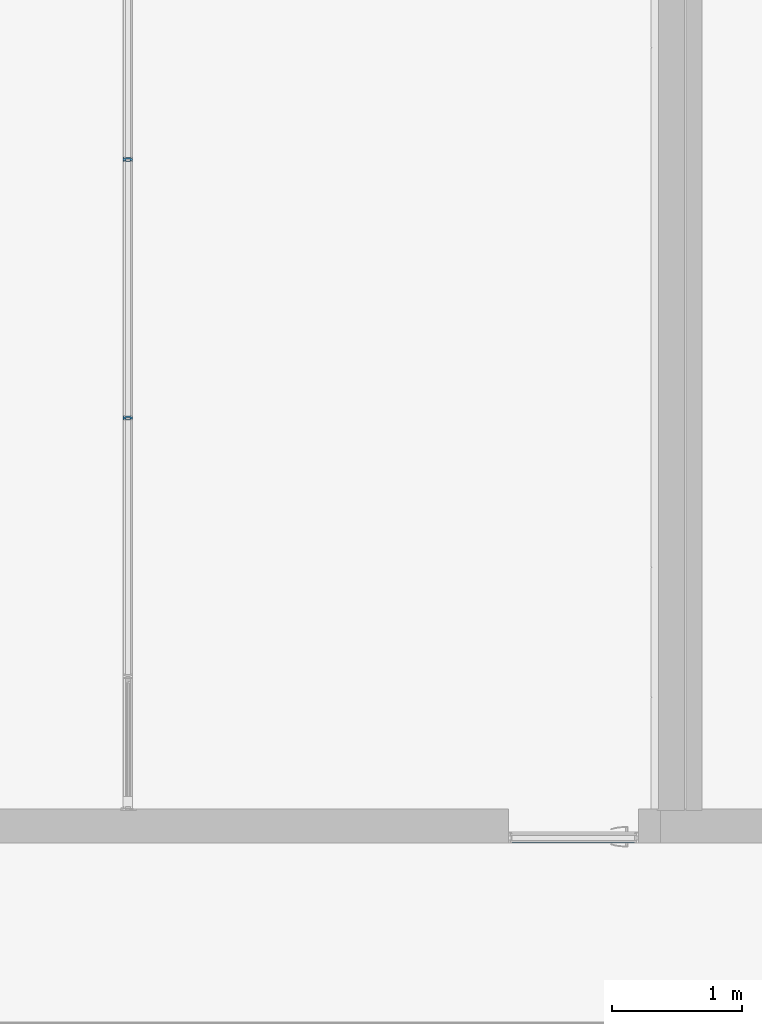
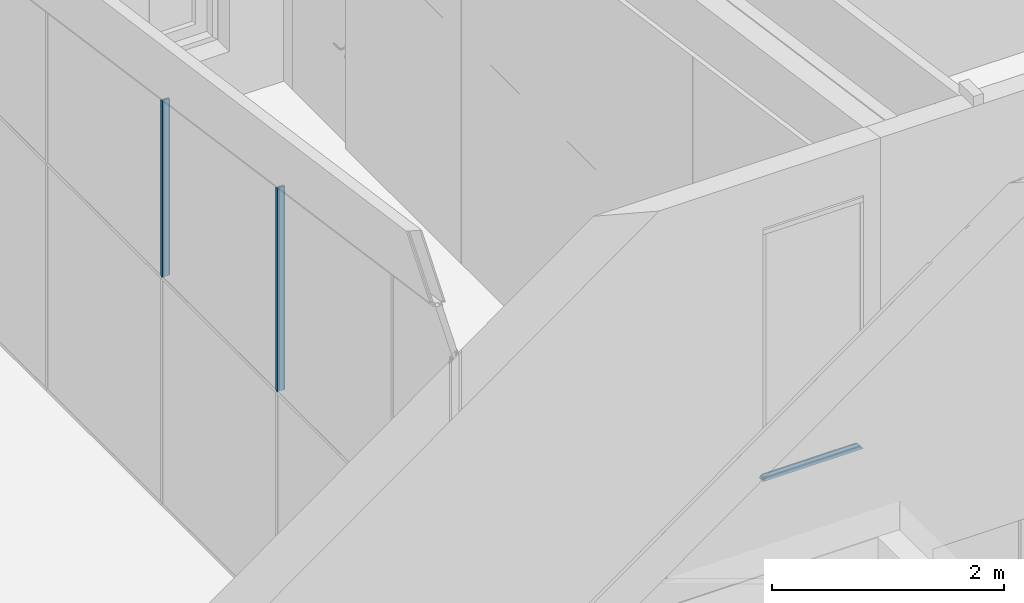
# One storey, part 71 of 246: 3 members, 2 elements without a shape of their own.
"""IFC2X3 building model written with IfcOpenShell, lengths in millimetres."""

from ifc_helpers import new_model, entity, si_unit, converted_unit, derived_unit, money_unit, direction, frame, origin_with_axes, place, context, subcontext, project, spatial, faceted_brep, material, material_list, type_object, element, aggregate, save


model = new_model("IFC2X3")

# Units and contexts
model_context = context("Model", 3, precision=0.01, world=origin_with_axes(), true_north=direction((0.0, 1.0)))
body_context = subcontext(model_context, "Body", "Model", "MODEL_VIEW")
ifc_project = project(units=[si_unit("LENGTHUNIT", "METRE", prefix="MILLI"), si_unit("AREAUNIT", "SQUARE_METRE"), si_unit("VOLUMEUNIT", "CUBIC_METRE"), converted_unit("PLANEANGLEUNIT", "DEGREE", entity("IfcPlaneAngleMeasure", 0.0174532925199), si_unit("PLANEANGLEUNIT", "RADIAN"), dimensions=[0, 0, 0, 0, 0, 0, 0]), si_unit("SOLIDANGLEUNIT", "STERADIAN"), money_unit("EUR"), converted_unit("TIMEUNIT", "Year", entity("IfcTimeMeasure", 31556926.0), si_unit("TIMEUNIT", "SECOND"), dimensions=[0, 0, 1, 0, 0, 0, 0]), si_unit("MASSUNIT", "GRAM", prefix="KILO"), si_unit("THERMODYNAMICTEMPERATUREUNIT", "DEGREE_CELSIUS"), si_unit("LUMINOUSINTENSITYUNIT", "LUMEN"), si_unit("ENERGYUNIT", "JOULE", prefix="MEGA"), derived_unit("THERMALCONDUCTANCEUNIT", [(si_unit("POWERUNIT", "WATT"), 1), (si_unit("LENGTHUNIT", "METRE"), -1), (si_unit("THERMODYNAMICTEMPERATUREUNIT", "KELVIN"), -1)]), derived_unit("SPECIFICHEATCAPACITYUNIT", [(si_unit("ENERGYUNIT", "JOULE"), 1), (si_unit("MASSUNIT", "GRAM", prefix="KILO"), -1), (si_unit("THERMODYNAMICTEMPERATUREUNIT", "KELVIN"), -1)]), derived_unit("MASSDENSITYUNIT", [(si_unit("MASSUNIT", "GRAM", prefix="KILO"), 1), (si_unit("VOLUMEUNIT", "CUBIC_METRE"), -1)])], contexts=[model_context])

# Site, building, storey
site_placement = place(None, origin_with_axes())
site = spatial("IfcSite", under=ifc_project, at=site_placement, Name="L.Koidula tn 11b", CompositionType="ELEMENT")
building_placement = place(site_placement, origin_with_axes())
building = spatial("IfcBuilding", under=site, at=building_placement, Name="Rakvere Riigigümnaasium", CompositionType="ELEMENT")
storey_placement = place(building_placement, origin_with_axes())
storey = spatial("IfcBuildingStorey", under=building, at=storey_placement, Name="1.korrus 0,00", CompositionType="ELEMENT", Elevation=0.0)

# Curtain wall, member
curtain_wall_type = type_object("IfcCurtainWallType", Name="Curtain Wall Type", PredefinedType="NOTDEFINED")
curtain_wall_1_placement = place(storey_placement, frame((36265.0251025, 61372.4546496, -0.000126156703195), z_axis=(0.0, 0.0, 1.0), x_axis=(1.0, 0.0, 0.0)))
curtain_wall_1 = element("IfcCurtainWall", 1, at=curtain_wall_1_placement, inside=storey, type_object=curtain_wall_type, Name="SKLF-03")
ifc_material_1 = material(Name="Klaasvill")
ifc_material_2 = material(Name="Teras RAL7012")
ifc_material_list = material_list([ifc_material_1, ifc_material_2])
member_type_1 = type_object("IfcMemberType", Name="Siseklaasfassaad-Servaprofiil-Doubleline30 30 x 42", PredefinedType="MULLION")
member_1_placement = place(curtain_wall_1_placement, frame((-500.0, 0.0, 2400.00010875), z_axis=(1.0, 0.0, 0.0), x_axis=(0.0, 0.0, 1.0)))
member_1 = element("IfcMember", 2, at=member_1_placement, type_object=member_type_1, material=ifc_material_list, Name="Frame-Siseklaasf-001", ObjectType="MULLION", context=body_context, shape_type="Brep", body=[
    faceted_brep([(13.8499999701, 15.000000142, 13.8499999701), (13.8499999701, 15.000000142, 986.15000003), (7.49999990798, 15.000000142, 992.500000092), (7.49999990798, 15.000000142, 7.49999990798), (13.8499999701, 29.0161444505, 13.8499999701), (13.8499999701, 29.0161444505, 986.15000003), (7.49999990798, 29.0161444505, 992.500000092), (7.49999990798, 29.0161444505, 7.49999990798)], [[[0, 1, 2, 3]], [[4, 5, 1, 0]], [[2, 1, 5, 6]], [[3, 2, 6, 7]], [[3, 7, 4, 0]], [[7, 6, 5, 4]]]),
    faceted_brep([(25.004489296, 27.0307503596, 25.004489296), (25.004489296, 27.0307503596, 974.995510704), (24.987414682, 29.0161444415, 975.012585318), (24.987414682, 29.0161444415, 24.987414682), (25.742237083, 26.2930025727, 25.742237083), (25.742237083, 26.2930025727, 974.257762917), (26.7500193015, 26.0229681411, 973.249980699), (27.75780152, 26.2930025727, 972.24219848), (28.4955493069, 27.0307503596, 971.504450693), (28.7655837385, 28.0385325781, 971.234416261), (28.5126239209, 29.0161444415, 971.487376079), (28.5126239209, 29.0161444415, 28.5126239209), (28.7655837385, 28.0385325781, 28.7655837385), (28.4955493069, 27.0307503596, 28.4955493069), (27.75780152, 26.2930025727, 27.75780152), (26.7500193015, 26.0229681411, 26.7500193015)], [[[0, 1, 2, 3]], [[4, 5, 1, 0]], [[2, 1, 5, 6, 7, 8, 9, 10]], [[3, 2, 10, 11]], [[3, 11, 12, 13, 14, 15, 4, 0]], [[15, 6, 5, 4]], [[14, 7, 6, 15]], [[13, 8, 7, 14]], [[12, 9, 8, 13]], [[11, 10, 9, 12]]]),
    faceted_brep([(7.49999990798, -39.0161445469, 7.49999990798), (7.49999990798, -39.0161445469, 992.500000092), (7.49999990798, -24.9999997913, 992.500000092), (7.49999990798, -24.9999997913, 7.49999990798), (13.8499999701, -39.0161445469, 13.8499999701), (13.8499999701, -39.0161445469, 986.15000003), (13.8499999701, -24.9999997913, 986.15000003), (13.8499999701, -24.9999997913, 13.8499999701)], [[[0, 1, 2, 3]], [[4, 5, 1, 0]], [[2, 1, 5, 6]], [[3, 2, 6, 7]], [[3, 7, 4, 0]], [[7, 6, 5, 4]]]),
    faceted_brep([(24.987414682, -39.0161444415, 24.987414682), (24.987414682, -39.0161444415, 975.012585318), (25.004489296, -37.0307503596, 974.995510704), (25.004489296, -37.0307503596, 25.004489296), (28.5126239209, -39.0161444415, 28.5126239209), (28.5126239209, -39.0161444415, 971.487376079), (28.7655837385, -38.0385325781, 971.234416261), (28.4955493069, -37.0307503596, 971.504450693), (27.75780152, -36.2930025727, 972.24219848), (26.7500193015, -36.0229681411, 973.249980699), (25.742237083, -36.2930025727, 974.257762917), (25.742237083, -36.2930025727, 25.742237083), (26.7500193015, -36.0229681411, 26.7500193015), (27.75780152, -36.2930025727, 27.75780152), (28.4955493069, -37.0307503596, 28.4955493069), (28.7655837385, -38.0385325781, 28.7655837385)], [[[0, 1, 2, 3]], [[4, 5, 1, 0]], [[2, 1, 5, 6, 7, 8, 9, 10]], [[3, 2, 10, 11]], [[3, 11, 12, 13, 14, 15, 4, 0]], [[15, 6, 5, 4]], [[14, 7, 6, 15]], [[13, 8, 7, 14]], [[12, 9, 8, 13]], [[11, 10, 9, 12]]]),
    faceted_brep([(29.5999996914, -22.0000000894, 29.5999996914), (29.5999996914, -22.0000000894, 970.400000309), (0.0, -22.0000000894, 1000.0), (0.0, -22.0000000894, 0.0), (29.5999996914, 12.0000000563, 29.5999996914), (29.5999996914, 12.0000000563, 970.400000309), (0.0, 12.0000000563, 1000.0), (1.9999999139, 10.0000001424, 998.000000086), (18.7999996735, 10.0000001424, 981.200000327), (18.7999996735, -20.0000001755, 981.200000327), (1.9999999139, -20.0000001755, 998.000000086), (0.0, 12.0000000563, 0.0), (1.9999999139, 10.0000001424, 1.9999999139), (1.9999999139, -20.0000001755, 1.9999999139), (18.7999996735, -20.0000001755, 18.7999996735), (18.7999996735, 10.0000001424, 18.7999996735)], [[[0, 1, 2, 3]], [[4, 5, 1, 0]], [[2, 1, 5, 6], [7, 8, 9, 10]], [[3, 2, 6, 11]], [[3, 11, 4, 0], [12, 13, 14, 15]], [[11, 6, 5, 4]], [[15, 8, 7, 12]], [[14, 9, 8, 15]], [[13, 10, 9, 14]], [[12, 7, 10, 13]]]),
    faceted_brep([(29.5999996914, 12.0000000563, 29.5999996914), (29.5999996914, 12.0000000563, 970.400000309), (0.0, 12.0, 1000.0), (0.0, 12.0, 0.0), (30.0000193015, 12.0, 30.0000193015), (30.0000193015, 12.0, 969.999980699), (30.0000193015, 15.0, 969.999980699), (13.8499999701, 15.000000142, 986.15000003), (7.49999999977, 15.0, 992.5), (7.49999999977, 29.0161444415, 992.5), (13.8499999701, 29.0161444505, 986.15000003), (24.987414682, 29.0161444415, 975.012585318), (28.5126239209, 29.0161444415, 971.487376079), (30.0000193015, 29.0161444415, 969.999980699), (30.0000193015, 32.0, 969.999980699), (0.0, 32.0, 1000.0), (0.0, 32.0, 0.0), (30.0000193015, 32.0, 30.0000193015), (30.0000193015, 29.0161444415, 30.0000193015), (28.5126239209, 29.0161444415, 28.5126239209), (24.987414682, 29.0161444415, 24.987414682), (13.8499999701, 29.0161444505, 13.8499999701), (7.49999999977, 29.0161444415, 7.49999999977), (7.49999999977, 15.0, 7.49999999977), (13.8499999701, 15.000000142, 13.8499999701), (30.0000193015, 15.0, 30.0000193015)], [[[0, 1, 2, 3]], [[4, 5, 1, 0]], [[2, 1, 5, 6, 7, 8, 9, 10, 11, 12, 13, 14, 15]], [[3, 2, 15, 16]], [[3, 16, 17, 18, 19, 20, 21, 22, 23, 24, 25, 4, 0]], [[25, 6, 5, 4]], [[24, 7, 6, 25]], [[23, 8, 7, 24]], [[22, 9, 8, 23]], [[21, 10, 9, 22]], [[20, 11, 10, 21]], [[19, 12, 11, 20]], [[18, 13, 12, 19]], [[17, 14, 13, 18]], [[16, 15, 14, 17]]]),
    faceted_brep([(0.0, -42.0, 0.0), (0.0, -42.0, 1000.0), (0.0, -22.0, 1000.0), (0.0, -22.0, 0.0), (30.0000193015, -42.0, 30.0000193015), (30.0000193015, -42.0, 969.999980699), (30.0000193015, -39.0161444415, 969.999980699), (28.5126239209, -39.0161444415, 971.487376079), (24.987414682, -39.0161444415, 975.012585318), (13.8499999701, -39.0161445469, 986.15000003), (7.49999999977, -39.0161444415, 992.5), (7.49999999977, -25.0, 992.5), (13.8499999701, -24.9999997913, 986.15000003), (30.0000193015, -25.0, 969.999980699), (30.0000193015, -22.0, 969.999980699), (29.5999996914, -22.0000000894, 970.400000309), (29.5999996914, -22.0000000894, 29.5999996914), (30.0000193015, -22.0, 30.0000193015), (30.0000193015, -25.0, 30.0000193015), (13.8499999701, -24.9999997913, 13.8499999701), (7.49999999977, -25.0, 7.49999999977), (7.49999999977, -39.0161444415, 7.49999999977), (13.8499999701, -39.0161445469, 13.8499999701), (24.987414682, -39.0161444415, 24.987414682), (28.5126239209, -39.0161444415, 28.5126239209), (30.0000193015, -39.0161444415, 30.0000193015)], [[[0, 1, 2, 3]], [[4, 5, 1, 0]], [[2, 1, 5, 6, 7, 8, 9, 10, 11, 12, 13, 14, 15]], [[3, 2, 15, 16]], [[3, 16, 17, 18, 19, 20, 21, 22, 23, 24, 25, 4, 0]], [[25, 6, 5, 4]], [[24, 7, 6, 25]], [[23, 8, 7, 24]], [[22, 9, 8, 23]], [[21, 10, 9, 22]], [[20, 11, 10, 21]], [[19, 12, 11, 20]], [[18, 13, 12, 19]], [[17, 14, 13, 18]], [[16, 15, 14, 17]]]),
])
aggregate(curtain_wall_1, [member_1])

# Curtain wall, members
curtain_wall_2_placement = place(storey_placement, frame((32835.0202258, 67589.2016838, 0.0), z_axis=(0.0, 0.0, 1.0), x_axis=(1.0, 0.0, 0.0)))
curtain_wall_2 = element("IfcCurtainWall", 3, at=curtain_wall_2_placement, inside=storey, type_object=curtain_wall_type, Name="SKLF-02")
member_type_2 = type_object("IfcMemberType", Name="Siseklaasfassaad-Vaheprofiil-Doubleline30 34 x 42", PredefinedType="MULLION")
member_2_placement = place(curtain_wall_2_placement, frame((0.0, -2981.25, 2400.0), z_axis=(0.0, 0.0, 1.0), x_axis=(0.0, 1.0, 0.0)))
member_2 = element("IfcMember", 4, at=member_2_placement, type_object=member_type_2, material=ifc_material_list, Name="Frame-Siseklaasf-243", ObjectType="MULLION", context=body_context, shape_type="Brep", body=[
    faceted_brep([(15.4955493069, 27.0307503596, 15.4955493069), (15.7655837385, 28.0385325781, 15.7655837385), (15.7655837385, 28.0385325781, 2152.89909419), (15.4955493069, 27.0307503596, 2152.9375348), (15.5126239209, 29.0161444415, 15.5126239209), (14.75780152, 26.2930025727, 14.75780152), (13.7500193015, 26.0229681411, 13.7500193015), (12.742237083, 26.2930025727, 12.742237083), (12.004489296, 27.0307503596, 12.004489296), (11.987414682, 29.0161444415, 11.987414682), (15.5126239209, 29.0161444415, 2152.93510415), (11.987414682, 29.0161444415, 2153.43693352), (12.004489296, 27.0307503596, 2153.43450287), (12.742237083, 26.2930025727, 2153.32948116), (13.7500193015, 26.0229681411, 2153.18601884), (14.75780152, 26.2930025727, 2153.04255651)], [[[0, 1, 2, 3]], [[4, 1, 0, 5, 6, 7, 8, 9]], [[1, 4, 10, 2]], [[3, 2, 10, 11, 12, 13, 14, 15]], [[5, 0, 3, 15]], [[6, 5, 15, 14]], [[7, 6, 14, 13]], [[8, 7, 13, 12]], [[9, 8, 12, 11]], [[4, 9, 11, 10]]]),
    faceted_brep([(11.987414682, -39.0161444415, 11.987414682), (15.5126239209, -39.0161444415, 15.5126239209), (15.5126239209, -39.0161444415, 2152.93510415), (11.987414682, -39.0161444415, 2153.43693352), (15.4955493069, -37.0307503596, 15.4955493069), (11.7344548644, -38.0385325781, 11.7344548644), (12.004489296, -37.0307503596, 12.004489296), (12.742237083, -36.2930025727, 12.742237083), (13.7500193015, -36.0229681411, 13.7500193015), (14.75780152, -36.2930025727, 14.75780152), (15.4955493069, -37.0307503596, 2152.9375348), (12.004489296, -37.0307503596, 2153.43450287), (11.7344548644, -38.0385325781, 2153.47294349), (14.75780152, -36.2930025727, 2153.04255651), (13.7500193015, -36.0229681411, 2153.18601884), (12.742237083, -36.2930025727, 2153.32948116)], [[[0, 1, 2, 3]], [[4, 1, 0, 5, 6, 7, 8, 9]], [[1, 4, 10, 2]], [[11, 12, 3, 2, 10, 13, 14, 15]], [[5, 0, 3, 12]], [[6, 5, 12, 11]], [[7, 6, 11, 15]], [[8, 7, 15, 14]], [[9, 8, 14, 13]], [[4, 9, 13, 10]]]),
    faceted_brep([(-12.004489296, 27.0307503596, 12.004489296), (-11.7344548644, 28.0385325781, 11.7344548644), (-11.7344548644, 28.0385325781, 2156.8138482), (-12.004489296, 27.0307503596, 2156.85228882), (-11.987414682, 29.0161444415, 11.987414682), (-12.742237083, 26.2930025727, 12.742237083), (-13.7500193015, 26.0229681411, 13.7500193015), (-14.75780152, 26.2930025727, 14.75780152), (-15.4955493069, 27.0307503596, 15.4955493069), (-15.7655837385, 28.0385325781, 15.7655837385), (-11.987414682, 29.0161444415, 2156.84985817), (-12.742237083, 26.2930025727, 2156.95731053), (-15.7655837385, 28.0385325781, 2157.3876975), (-15.4955493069, 27.0307503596, 2157.34925689), (-14.75780152, 26.2930025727, 2157.24423518), (-13.7500193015, 26.0229681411, 2157.10077285)], [[[0, 1, 2, 3]], [[4, 1, 0, 5, 6, 7, 8, 9]], [[1, 4, 10, 2]], [[11, 3, 2, 10, 12, 13, 14, 15]], [[5, 0, 3, 11]], [[6, 5, 11, 15]], [[7, 6, 15, 14]], [[8, 7, 14, 13]], [[9, 8, 13, 12]], [[4, 9, 12, 10]]]),
    faceted_brep([(-11.987414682, -39.0161444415, 11.987414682), (-11.7344548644, -38.0385325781, 11.7344548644), (-11.7344548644, -38.0385325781, 2156.8138482), (-11.987414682, -39.0161444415, 2156.84985817), (-12.004489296, -37.0307503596, 12.004489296), (-15.5126239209, -39.0161444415, 15.5126239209), (-15.4955493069, -37.0307503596, 15.4955493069), (-14.75780152, -36.2930025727, 14.75780152), (-13.7500193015, -36.0229681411, 13.7500193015), (-12.742237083, -36.2930025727, 12.742237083), (-12.004489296, -37.0307503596, 2156.85228882), (-12.742237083, -36.2930025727, 2156.95731053), (-13.7500193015, -36.0229681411, 2157.10077285), (-14.75780152, -36.2930025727, 2157.24423518), (-15.4955493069, -37.0307503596, 2157.34925689), (-15.5126239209, -39.0161444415, 2157.35168754)], [[[0, 1, 2, 3]], [[4, 1, 0, 5, 6, 7, 8, 9]], [[1, 4, 10, 2]], [[11, 12, 13, 14, 15, 3, 2, 10]], [[5, 0, 3, 15]], [[6, 5, 15, 14]], [[7, 6, 14, 13]], [[8, 7, 13, 12]], [[9, 8, 12, 11]], [[4, 9, 11, 10]]]),
    faceted_brep([(-12.8000002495, 10.0000001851, 12.8000002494), (0.0, 10.0000001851, 0.0), (4.0000003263, 10.0000001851, 4.0000003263), (4.0000003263, 10.0000001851, 2154.57397783), (-12.8000002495, 10.0000001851, 2156.96553337), (-14.8000001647, 12.0000001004, 14.8000001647), (0.0, 12.0000001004, 0.0), (-12.8000002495, -20.0000001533, 12.8000002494), (0.0, -20.0000001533, 0.0), (0.0, -22.0000000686, 0.0), (-14.8000001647, -22.0000000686, 14.8000001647), (14.8000003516, 12.0000001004, 14.8000003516), (14.8000003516, -22.0000000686, 14.8000003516), (4.0000003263, -20.0000001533, 4.0000003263), (4.0000003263, -20.0000001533, 2154.57397783), (14.8000003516, 12.0000001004, 2153.03654932), (-3.08905781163e-07, 12.0000001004, 2155.14339589), (-14.8000001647, 12.0000001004, 2157.25024234), (-14.8000001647, -22.0000000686, 2157.25024234), (-3.08905781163e-07, -22.0000000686, 2155.14339589), (14.8000003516, -22.0000000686, 2153.03654932), (-12.8000002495, -20.0000001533, 2156.96553337)], [[[0, 1, 2, 3, 4]], [[5, 6, 1, 0, 7, 8, 9, 10]], [[6, 11, 12, 9, 8, 13, 2, 1]], [[2, 13, 14, 3]], [[15, 16, 17, 18, 19, 20], [3, 14, 21, 4]], [[7, 0, 4, 21]], [[6, 5, 17, 16]], [[8, 7, 21, 14, 13]], [[10, 9, 19, 18]], [[5, 10, 18, 17]], [[11, 6, 16, 15]], [[12, 11, 15, 20]], [[9, 12, 20, 19]]]),
    faceted_brep([(17.0000193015, 29.0161446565, 17.0000193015), (17.0000193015, 32.0000000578, 17.0000193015), (17.0000193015, 32.0000000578, 2152.72336674), (17.0000193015, 29.0161446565, 2152.72336674), (0.0, 32.0000000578, 0.0), (15.5126239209, 29.0161444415, 15.5126239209), (11.987414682, 29.0161444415, 11.987414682), (7.50000002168, 29.0161446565, 7.50000002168), (7.50000002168, 15.0000000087, 7.50000002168), (17.0000193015, 15.0000000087, 17.0000193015), (17.0000193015, 12.0, 17.0000193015), (14.8000003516, 12.0000001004, 14.8000003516), (0.0, 12.0, 0.0), (0.0, 32.0000000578, 2155.14339584), (15.5126239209, 29.0161444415, 2152.93510415), (0.0, 12.0, 2155.14339584), (14.8000003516, 12.0000001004, 2153.03654932), (17.0000193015, 12.0, 2152.72336674), (17.0000193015, 15.0000000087, 2152.72336674), (7.50000002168, 15.0000000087, 2154.07573715), (7.50000002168, 29.0161446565, 2154.07573715), (11.987414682, 29.0161444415, 2153.43693352)], [[[0, 1, 2, 3]], [[4, 1, 0, 5, 6, 7, 8, 9, 10, 11, 12]], [[1, 4, 13, 2]], [[14, 3, 2, 13, 15, 16, 17, 18, 19, 20, 21]], [[5, 0, 3, 14]], [[6, 5, 14, 21]], [[7, 6, 21, 20]], [[8, 7, 20, 19]], [[9, 8, 19, 18]], [[10, 9, 18, 17]], [[11, 10, 17, 16]], [[12, 11, 16, 15]], [[4, 12, 15, 13]]]),
    faceted_brep([(17.0000193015, -24.9999999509, 17.0000193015), (17.0000193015, -21.9999999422, 17.0000193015), (17.0000193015, -21.9999999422, 2152.72336674), (17.0000193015, -24.9999999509, 2152.72336674), (14.8000003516, -22.0000000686, 14.8000003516), (7.50000002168, -24.9999999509, 7.50000002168), (7.50000002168, -39.0161445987, 7.50000002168), (11.987414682, -39.0161444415, 11.987414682), (15.5126239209, -39.0161444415, 15.5126239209), (17.0000193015, -39.0161445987, 17.0000193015), (17.0000193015, -42.0, 17.0000193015), (0.0, -42.0, 0.0), (0.0, -21.9999999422, 0.0), (14.8000003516, -22.0000000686, 2153.03654932), (0.0, -21.9999999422, 2155.14339584), (0.0, -42.0, 2155.14339584), (17.0000193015, -42.0, 2152.72336674), (17.0000193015, -39.0161445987, 2152.72336674), (15.5126239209, -39.0161444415, 2152.93510415), (11.987414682, -39.0161444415, 2153.43693352), (7.50000002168, -39.0161445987, 2154.07573715), (7.50000002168, -24.9999999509, 2154.07573715)], [[[0, 1, 2, 3]], [[4, 1, 0, 5, 6, 7, 8, 9, 10, 11, 12]], [[1, 4, 13, 2]], [[3, 2, 13, 14, 15, 16, 17, 18, 19, 20, 21]], [[5, 0, 3, 21]], [[6, 5, 21, 20]], [[7, 6, 20, 19]], [[8, 7, 19, 18]], [[9, 8, 18, 17]], [[10, 9, 17, 16]], [[11, 10, 16, 15]], [[12, 11, 15, 14]], [[4, 12, 14, 13]]]),
    faceted_brep([(0.0, 12.0, 0.0), (0.0, 32.0, 0.0), (0.0, 32.0, 2155.14339584), (0.0, 12.0, 2155.14339584), (-17.0000193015, 32.0, 17.0000193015), (-14.8000001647, 12.0000001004, 14.8000001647), (-17.0000193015, 12.0, 17.0000193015), (-17.0000193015, 15.0, 17.0000193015), (-7.49999999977, 15.0, 7.49999999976), (-7.49999999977, 29.0161444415, 7.49999999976), (-11.987414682, 29.0161444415, 11.987414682), (-15.5126239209, 29.0161444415, 15.5126239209), (-17.0000193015, 29.0161444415, 17.0000193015), (-17.0000193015, 32.0, 2157.56342495), (-17.0000193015, 15.0, 2157.56342495), (-17.0000193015, 12.0, 2157.56342495), (-14.8000001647, 12.0000001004, 2157.25024234), (-17.0000193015, 29.0161444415, 2157.56342495), (-15.5126239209, 29.0161444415, 2157.35168754), (-11.987414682, 29.0161444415, 2156.84985817), (-7.49999999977, 29.0161444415, 2156.21105453), (-7.49999999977, 15.0, 2156.21105453)], [[[0, 1, 2, 3]], [[4, 1, 0, 5, 6, 7, 8, 9, 10, 11, 12]], [[1, 4, 13, 2]], [[14, 15, 16, 3, 2, 13, 17, 18, 19, 20, 21]], [[5, 0, 3, 16]], [[6, 5, 16, 15]], [[7, 6, 15, 14]], [[8, 7, 14, 21]], [[9, 8, 21, 20]], [[10, 9, 20, 19]], [[11, 10, 19, 18]], [[12, 11, 18, 17]], [[4, 12, 17, 13]]]),
    faceted_brep([(0.0, -42.0, 0.0), (0.0, -22.0, 0.0), (0.0, -22.0, 2155.14339584), (0.0, -42.0, 2155.14339584), (-14.8000001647, -22.0000000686, 14.8000001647), (-17.0000193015, -42.0, 17.0000193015), (-17.0000193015, -39.0161444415, 17.0000193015), (-15.5126239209, -39.0161444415, 15.5126239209), (-11.987414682, -39.0161444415, 11.987414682), (-7.49999999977, -39.0161444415, 7.49999999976), (-7.49999999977, -25.0, 7.49999999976), (-17.0000193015, -25.0, 17.0000193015), (-17.0000193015, -22.0, 17.0000193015), (-14.8000001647, -22.0000000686, 2157.25024234), (-17.0000193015, -39.0161444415, 2157.56342495), (-17.0000193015, -42.0, 2157.56342495), (-17.0000193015, -22.0, 2157.56342495), (-17.0000193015, -25.0, 2157.56342495), (-7.49999999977, -25.0, 2156.21105453), (-7.49999999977, -39.0161444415, 2156.21105453), (-11.987414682, -39.0161444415, 2156.84985817), (-15.5126239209, -39.0161444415, 2157.35168754)], [[[0, 1, 2, 3]], [[4, 1, 0, 5, 6, 7, 8, 9, 10, 11, 12]], [[1, 4, 13, 2]], [[14, 15, 3, 2, 13, 16, 17, 18, 19, 20, 21]], [[5, 0, 3, 15]], [[6, 5, 15, 14]], [[7, 6, 14, 21]], [[8, 7, 21, 20]], [[9, 8, 20, 19]], [[10, 9, 19, 18]], [[11, 10, 18, 17]], [[12, 11, 17, 16]], [[4, 12, 16, 13]]]),
])
member_3_placement = place(curtain_wall_2_placement, frame((0.0, -993.75, 2400.0), z_axis=(0.0, 0.0, 1.0), x_axis=(0.0, 1.0, 0.0)))
member_3 = element("IfcMember", 5, at=member_3_placement, type_object=member_type_2, material=ifc_material_list, Name="Frame-Siseklaasf-228", ObjectType="MULLION", context=body_context, shape_type="Brep", body=[
    faceted_brep([(15.4955493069, 27.0307503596, 15.4955493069), (15.7655837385, 28.0385325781, 15.7655837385), (15.7655837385, 28.0385325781, 1869.96939145), (15.4955493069, 27.0307503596, 1870.00783208), (15.5126239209, 29.0161444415, 15.5126239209), (14.75780152, 26.2930025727, 14.75780152), (13.7500193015, 26.0229681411, 13.7500193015), (12.742237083, 26.2930025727, 12.742237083), (12.004489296, 27.0307503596, 12.004489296), (11.987414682, 29.0161444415, 11.987414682), (15.5126239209, 29.0161444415, 1870.00540143), (11.987414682, 29.0161444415, 1870.50723107), (12.004489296, 27.0307503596, 1870.50480042), (12.742237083, 26.2930025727, 1870.39977865), (13.7500193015, 26.0229681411, 1870.25631625), (14.75780152, 26.2930025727, 1870.11285385)], [[[0, 1, 2, 3]], [[4, 1, 0, 5, 6, 7, 8, 9]], [[1, 4, 10, 2]], [[3, 2, 10, 11, 12, 13, 14, 15]], [[5, 0, 3, 15]], [[6, 5, 15, 14]], [[7, 6, 14, 13]], [[8, 7, 13, 12]], [[9, 8, 12, 11]], [[4, 9, 11, 10]]]),
    faceted_brep([(11.987414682, -39.0161444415, 11.987414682), (15.5126239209, -39.0161444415, 15.5126239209), (15.5126239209, -39.0161444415, 1870.00540143), (11.987414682, -39.0161444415, 1870.50723107), (15.4955493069, -37.0307503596, 15.4955493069), (11.7344548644, -38.0385325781, 11.7344548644), (12.004489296, -37.0307503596, 12.004489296), (12.742237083, -36.2930025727, 12.742237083), (13.7500193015, -36.0229681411, 13.7500193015), (14.75780152, -36.2930025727, 14.75780152), (15.4955493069, -37.0307503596, 1870.00783208), (12.004489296, -37.0307503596, 1870.50480042), (11.7344548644, -38.0385325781, 1870.54324105), (14.75780152, -36.2930025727, 1870.11285385), (13.7500193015, -36.0229681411, 1870.25631625), (12.742237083, -36.2930025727, 1870.39977865)], [[[0, 1, 2, 3]], [[4, 1, 0, 5, 6, 7, 8, 9]], [[1, 4, 10, 2]], [[11, 12, 3, 2, 10, 13, 14, 15]], [[5, 0, 3, 12]], [[6, 5, 12, 11]], [[7, 6, 11, 15]], [[8, 7, 15, 14]], [[9, 8, 14, 13]], [[4, 9, 13, 10]]]),
    faceted_brep([(-12.004489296, 27.0307503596, 12.004489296), (-11.7344548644, 28.0385325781, 11.7344548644), (-11.7344548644, 28.0385325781, 1873.88414753), (-12.004489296, 27.0307503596, 1873.92258816), (-11.987414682, 29.0161444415, 11.987414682), (-12.742237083, 26.2930025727, 12.742237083), (-13.7500193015, 26.0229681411, 13.7500193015), (-14.75780152, 26.2930025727, 14.75780152), (-15.4955493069, 27.0307503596, 15.4955493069), (-15.7655837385, 28.0385325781, 15.7655837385), (-11.987414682, 29.0161444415, 1873.92015751), (-12.742237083, 26.2930025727, 1874.02760993), (-15.7655837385, 28.0385325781, 1874.45799713), (-15.4955493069, 27.0307503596, 1874.4195565), (-14.75780152, 26.2930025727, 1874.31453473), (-13.7500193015, 26.0229681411, 1874.17107233)], [[[0, 1, 2, 3]], [[4, 1, 0, 5, 6, 7, 8, 9]], [[1, 4, 10, 2]], [[11, 3, 2, 10, 12, 13, 14, 15]], [[5, 0, 3, 11]], [[6, 5, 11, 15]], [[7, 6, 15, 14]], [[8, 7, 14, 13]], [[9, 8, 13, 12]], [[4, 9, 12, 10]]]),
    faceted_brep([(-11.987414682, -39.0161444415, 11.987414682), (-11.7344548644, -38.0385325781, 11.7344548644), (-11.7344548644, -38.0385325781, 1873.88414753), (-11.987414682, -39.0161444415, 1873.92015751), (-12.004489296, -37.0307503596, 12.004489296), (-15.5126239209, -39.0161444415, 15.5126239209), (-15.4955493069, -37.0307503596, 15.4955493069), (-14.75780152, -36.2930025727, 14.75780152), (-13.7500193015, -36.0229681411, 13.7500193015), (-12.742237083, -36.2930025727, 12.742237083), (-12.004489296, -37.0307503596, 1873.92258816), (-12.742237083, -36.2930025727, 1874.02760993), (-13.7500193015, -36.0229681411, 1874.17107233), (-14.75780152, -36.2930025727, 1874.31453473), (-15.4955493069, -37.0307503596, 1874.4195565), (-15.5126239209, -39.0161444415, 1874.42198715)], [[[0, 1, 2, 3]], [[4, 1, 0, 5, 6, 7, 8, 9]], [[1, 4, 10, 2]], [[11, 12, 13, 14, 15, 3, 2, 10]], [[5, 0, 3, 15]], [[6, 5, 15, 14]], [[7, 6, 14, 13]], [[8, 7, 13, 12]], [[9, 8, 12, 11]], [[4, 9, 11, 10]]]),
    faceted_brep([(-12.8000002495, 10.0000001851, 12.8000002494), (0.0, 10.0000001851, 0.0), (4.0000003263, 10.0000001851, 4.0000003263), (4.0000003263, 10.0000001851, 1871.64427598), (-12.8000002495, 10.0000001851, 1874.03583278), (-14.8000001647, 12.0000001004, 14.8000001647), (0.0, 12.0000001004, 0.0), (-12.8000002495, -20.0000001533, 12.8000002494), (0.0, -20.0000001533, 0.0), (0.0, -22.0000000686, 0.0), (-14.8000001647, -22.0000000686, 14.8000001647), (14.8000003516, 12.0000001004, 14.8000003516), (14.8000003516, -22.0000000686, 14.8000003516), (4.0000003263, -20.0000001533, 4.0000003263), (4.0000003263, -20.0000001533, 1871.64427598), (14.8000003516, 12.0000001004, 1870.10684665), (-3.08905781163e-07, 12.0000001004, 1872.21369433), (-14.8000001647, 12.0000001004, 1874.3205419), (-14.8000001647, -22.0000000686, 1874.3205419), (-3.08905781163e-07, -22.0000000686, 1872.21369433), (14.8000003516, -22.0000000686, 1870.10684665), (-12.8000002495, -20.0000001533, 1874.03583278)], [[[0, 1, 2, 3, 4]], [[5, 6, 1, 0, 7, 8, 9, 10]], [[6, 11, 12, 9, 8, 13, 2, 1]], [[2, 13, 14, 3]], [[15, 16, 17, 18, 19, 20], [3, 14, 21, 4]], [[7, 0, 4, 21]], [[6, 5, 17, 16]], [[8, 7, 21, 14, 13]], [[10, 9, 19, 18]], [[5, 10, 18, 17]], [[11, 6, 16, 15]], [[12, 11, 15, 20]], [[9, 12, 20, 19]]]),
    faceted_brep([(17.0000193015, 29.0161446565, 17.0000193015), (17.0000193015, 32.0000000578, 17.0000193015), (17.0000193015, 32.0000000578, 1869.79366391), (17.0000193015, 29.0161446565, 1869.79366391), (0.0, 32.0000000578, 0.0), (15.5126239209, 29.0161444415, 15.5126239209), (11.987414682, 29.0161444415, 11.987414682), (7.50000002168, 29.0161446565, 7.50000002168), (7.50000002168, 15.0000000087, 7.50000002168), (17.0000193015, 15.0000000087, 17.0000193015), (17.0000193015, 12.0, 17.0000193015), (14.8000003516, 12.0000001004, 14.8000003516), (0.0, 12.0, 0.0), (0.0, 32.0000000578, 1872.21369429), (15.5126239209, 29.0161444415, 1870.00540143), (0.0, 12.0, 1872.21369429), (14.8000003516, 12.0000001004, 1870.10684665), (17.0000193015, 12.0, 1869.79366391), (17.0000193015, 15.0000000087, 1869.79366391), (7.50000002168, 15.0000000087, 1871.14603504), (7.50000002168, 29.0161446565, 1871.14603504), (11.987414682, 29.0161444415, 1870.50723107)], [[[0, 1, 2, 3]], [[4, 1, 0, 5, 6, 7, 8, 9, 10, 11, 12]], [[1, 4, 13, 2]], [[14, 3, 2, 13, 15, 16, 17, 18, 19, 20, 21]], [[5, 0, 3, 14]], [[6, 5, 14, 21]], [[7, 6, 21, 20]], [[8, 7, 20, 19]], [[9, 8, 19, 18]], [[10, 9, 18, 17]], [[11, 10, 17, 16]], [[12, 11, 16, 15]], [[4, 12, 15, 13]]]),
    faceted_brep([(17.0000193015, -24.9999999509, 17.0000193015), (17.0000193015, -21.9999999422, 17.0000193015), (17.0000193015, -21.9999999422, 1869.79366391), (17.0000193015, -24.9999999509, 1869.79366391), (14.8000003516, -22.0000000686, 14.8000003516), (7.50000002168, -24.9999999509, 7.50000002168), (7.50000002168, -39.0161445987, 7.50000002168), (11.987414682, -39.0161444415, 11.987414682), (15.5126239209, -39.0161444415, 15.5126239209), (17.0000193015, -39.0161445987, 17.0000193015), (17.0000193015, -42.0, 17.0000193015), (0.0, -42.0, 0.0), (0.0, -21.9999999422, 0.0), (14.8000003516, -22.0000000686, 1870.10684665), (0.0, -21.9999999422, 1872.21369429), (0.0, -42.0, 1872.21369429), (17.0000193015, -42.0, 1869.79366391), (17.0000193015, -39.0161445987, 1869.79366391), (15.5126239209, -39.0161444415, 1870.00540143), (11.987414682, -39.0161444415, 1870.50723107), (7.50000002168, -39.0161445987, 1871.14603504), (7.50000002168, -24.9999999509, 1871.14603504)], [[[0, 1, 2, 3]], [[4, 1, 0, 5, 6, 7, 8, 9, 10, 11, 12]], [[1, 4, 13, 2]], [[3, 2, 13, 14, 15, 16, 17, 18, 19, 20, 21]], [[5, 0, 3, 21]], [[6, 5, 21, 20]], [[7, 6, 20, 19]], [[8, 7, 19, 18]], [[9, 8, 18, 17]], [[10, 9, 17, 16]], [[11, 10, 16, 15]], [[12, 11, 15, 14]], [[4, 12, 14, 13]]]),
    faceted_brep([(0.0, 12.0, 0.0), (0.0, 32.0, 0.0), (0.0, 32.0, 1872.21369429), (0.0, 12.0, 1872.21369429), (-17.0000193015, 32.0, 17.0000193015), (-14.8000001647, 12.0000001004, 14.8000001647), (-17.0000193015, 12.0, 17.0000193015), (-17.0000193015, 15.0, 17.0000193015), (-7.49999999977, 15.0, 7.49999999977), (-7.49999999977, 29.0161444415, 7.49999999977), (-11.987414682, 29.0161444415, 11.987414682), (-15.5126239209, 29.0161444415, 15.5126239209), (-17.0000193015, 29.0161444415, 17.0000193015), (-17.0000193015, 32.0, 1874.63372467), (-17.0000193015, 15.0, 1874.63372467), (-17.0000193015, 12.0, 1874.63372467), (-14.8000001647, 12.0000001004, 1874.3205419), (-17.0000193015, 29.0161444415, 1874.63372467), (-15.5126239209, 29.0161444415, 1874.42198715), (-11.987414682, 29.0161444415, 1873.92015751), (-7.49999999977, 29.0161444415, 1873.28135354), (-7.49999999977, 15.0, 1873.28135354)], [[[0, 1, 2, 3]], [[4, 1, 0, 5, 6, 7, 8, 9, 10, 11, 12]], [[1, 4, 13, 2]], [[14, 15, 16, 3, 2, 13, 17, 18, 19, 20, 21]], [[5, 0, 3, 16]], [[6, 5, 16, 15]], [[7, 6, 15, 14]], [[8, 7, 14, 21]], [[9, 8, 21, 20]], [[10, 9, 20, 19]], [[11, 10, 19, 18]], [[12, 11, 18, 17]], [[4, 12, 17, 13]]]),
    faceted_brep([(0.0, -42.0, 0.0), (0.0, -22.0, 0.0), (0.0, -22.0, 1872.21369429), (0.0, -42.0, 1872.21369429), (-14.8000001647, -22.0000000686, 14.8000001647), (-17.0000193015, -42.0, 17.0000193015), (-17.0000193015, -39.0161444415, 17.0000193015), (-15.5126239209, -39.0161444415, 15.5126239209), (-11.987414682, -39.0161444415, 11.987414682), (-7.49999999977, -39.0161444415, 7.49999999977), (-7.49999999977, -25.0, 7.49999999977), (-17.0000193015, -25.0, 17.0000193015), (-17.0000193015, -22.0, 17.0000193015), (-14.8000001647, -22.0000000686, 1874.3205419), (-17.0000193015, -39.0161444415, 1874.63372467), (-17.0000193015, -42.0, 1874.63372467), (-17.0000193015, -22.0, 1874.63372467), (-17.0000193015, -25.0, 1874.63372467), (-7.49999999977, -25.0, 1873.28135354), (-7.49999999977, -39.0161444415, 1873.28135354), (-11.987414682, -39.0161444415, 1873.92015751), (-15.5126239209, -39.0161444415, 1874.42198715)], [[[0, 1, 2, 3]], [[4, 1, 0, 5, 6, 7, 8, 9, 10, 11, 12]], [[1, 4, 13, 2]], [[14, 15, 3, 2, 13, 16, 17, 18, 19, 20, 21]], [[5, 0, 3, 15]], [[6, 5, 15, 14]], [[7, 6, 14, 21]], [[8, 7, 21, 20]], [[9, 8, 20, 19]], [[10, 9, 19, 18]], [[11, 10, 18, 17]], [[12, 11, 17, 16]], [[4, 12, 16, 13]]]),
])
aggregate(curtain_wall_2, [member_2, member_3])

save(model, "model.ifc")
